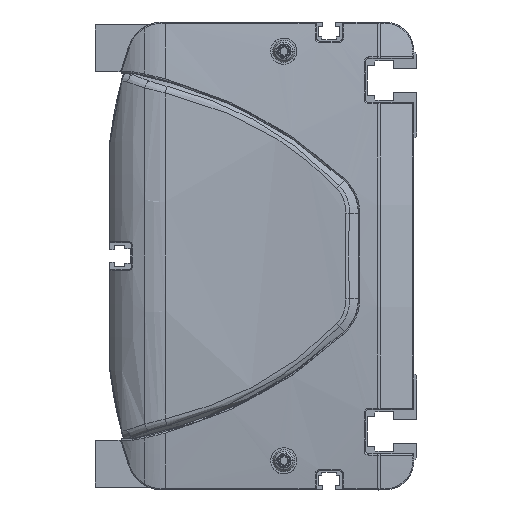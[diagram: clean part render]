
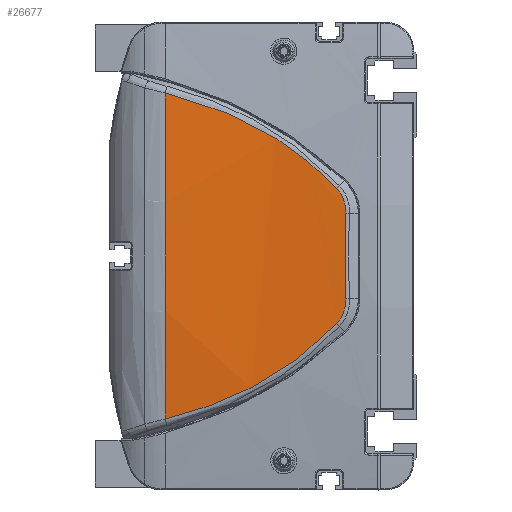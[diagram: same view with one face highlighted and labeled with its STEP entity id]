
A CAD part, left-side view. The second image highlights one B-rep face of the part: STEP entity #26677.
In plain terms, the highlighted cylindrical face has radius 600 mm (diameter 1200 mm), a partial arc.
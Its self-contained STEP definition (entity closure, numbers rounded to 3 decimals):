
#7189=CARTESIAN_POINT('',(-12.406,86.,55.736));
#7190=CARTESIAN_POINT('',(-12.529,80.495,54.41));
#7191=CARTESIAN_POINT('',(-12.828,69.636,51.114));
#7192=CARTESIAN_POINT('',(-13.389,54.079,44.179));
#7193=CARTESIAN_POINT('',(-14.01,39.709,34.979));
#7194=CARTESIAN_POINT('',(-14.395,31.353,27.243));
#7195=CARTESIAN_POINT('',(-14.555,27.451,23.113));
#7197=CARTESIAN_POINT('',(-14.555,27.451,23.113));
#7198=CARTESIAN_POINT('',(-14.598,26.394,21.994));
#7199=CARTESIAN_POINT('',(-14.695,24.746,19.315));
#7200=CARTESIAN_POINT('',(-14.783,24.276,16.208));
#7201=CARTESIAN_POINT('',(-14.821,24.351,14.67));
#7203=CARTESIAN_POINT('',(-14.821,24.351,14.67));
#7204=CARTESIAN_POINT('',(-14.9,24.51,11.413));
#7205=CARTESIAN_POINT('',(-15.007,24.721,4.895));
#7206=CARTESIAN_POINT('',(-15.007,24.721,
-4.895));
#7207=CARTESIAN_POINT('',(-14.9,24.51,
-11.413));
#7208=CARTESIAN_POINT('',(-14.821,24.351,
-14.67));
#7210=CARTESIAN_POINT('',(-14.821,24.351,
-14.67));
#7211=CARTESIAN_POINT('',(-14.783,24.276,
-16.208));
#7212=CARTESIAN_POINT('',(-14.695,24.746,
-19.315));
#7213=CARTESIAN_POINT('',(-14.598,26.394,
-21.995));
#7214=CARTESIAN_POINT('',(-14.555,27.451,
-23.113));
#7216=CARTESIAN_POINT('',(-14.555,27.451,
-23.113));
#7217=CARTESIAN_POINT('',(-14.395,31.353,
-27.243));
#7218=CARTESIAN_POINT('',(-14.01,39.709,
-34.979));
#7219=CARTESIAN_POINT('',(-13.389,54.079,
-44.179));
#7220=CARTESIAN_POINT('',(-12.828,69.636,
-51.114));
#7221=CARTESIAN_POINT('',(-12.529,80.495,
-54.41));
#7222=CARTESIAN_POINT('',(-12.406,86.,
-55.736));
#7224=CARTESIAN_POINT('',(585.,86.,0.));
#7225=DIRECTION('',(0.,1.,0.));
#7226=DIRECTION('',(-0.996,0.,-0.093));
#7227=AXIS2_PLACEMENT_3D('',#7224,#7225,#7226);
#7240=CARTESIAN_POINT('',(-12.406,86.,55.736));
#13068=VERTEX_POINT('',#7240);
#13069=CARTESIAN_POINT('',(-12.406,86.,
-55.736));
#13070=VERTEX_POINT('',#13069);
#13120=VERTEX_POINT('',#7195);
#13121=VERTEX_POINT('',#7201);
#13122=VERTEX_POINT('',#7208);
#13123=VERTEX_POINT('',#7214);
#26659=CARTESIAN_POINT('',(585.,87.45,0.));
#26660=DIRECTION('',(0.,-1.,0.));
#26661=DIRECTION('',(0.,0.,-1.));
#26662=AXIS2_PLACEMENT_3D('',#26659,#26660,#26661);
#26663=CYLINDRICAL_SURFACE('',#26662,600.);
#26665=ORIENTED_EDGE('',*,*,#26664,.T.);
#26667=ORIENTED_EDGE('',*,*,#26666,.T.);
#26668=ORIENTED_EDGE('',*,*,#26649,.T.);
#26670=ORIENTED_EDGE('',*,*,#26669,.T.);
#26672=ORIENTED_EDGE('',*,*,#26671,.T.);
#26674=ORIENTED_EDGE('',*,*,#26673,.T.);
#26675=EDGE_LOOP('',(#26665,#26667,#26668,#26670,#26672,#26674));
#26676=FACE_OUTER_BOUND('',#26675,.F.);
#26677=ADVANCED_FACE('',(#26676),#26663,.T.);
#7196=B_SPLINE_CURVE_WITH_KNOTS('',3,(#7189,#7190,#7191,#7192,#7193,#7194,
#7195),.UNSPECIFIED.,.F.,.F.,(4,1,1,1,4),(0.,0.25,0.5,0.75,1.),
.UNSPECIFIED.);
#7202=B_SPLINE_CURVE_WITH_KNOTS('',3,(#7197,#7198,#7199,#7200,#7201),
.UNSPECIFIED.,.F.,.F.,(4,1,4),(0.,0.5,1.),.UNSPECIFIED.);
#7209=B_SPLINE_CURVE_WITH_KNOTS('',3,(#7203,#7204,#7205,#7206,#7207,#7208),
.UNSPECIFIED.,.F.,.F.,(4,1,1,4),(0.,0.333,0.667,1.),
.UNSPECIFIED.);
#7215=B_SPLINE_CURVE_WITH_KNOTS('',3,(#7210,#7211,#7212,#7213,#7214),
.UNSPECIFIED.,.F.,.F.,(4,1,4),(0.,0.5,1.),.UNSPECIFIED.);
#7223=B_SPLINE_CURVE_WITH_KNOTS('',3,(#7216,#7217,#7218,#7219,#7220,#7221,
#7222),.UNSPECIFIED.,.F.,.F.,(4,1,1,1,4),(0.,0.25,0.5,0.75,1.),
.UNSPECIFIED.);
#7228=CIRCLE('',#7227,600.);
#26649=EDGE_CURVE('',#13121,#13122,#7209,.T.);
#26664=EDGE_CURVE('',#13068,#13120,#7196,.T.);
#26666=EDGE_CURVE('',#13120,#13121,#7202,.T.);
#26669=EDGE_CURVE('',#13122,#13123,#7215,.T.);
#26671=EDGE_CURVE('',#13123,#13070,#7223,.T.);
#26673=EDGE_CURVE('',#13070,#13068,#7228,.T.);
